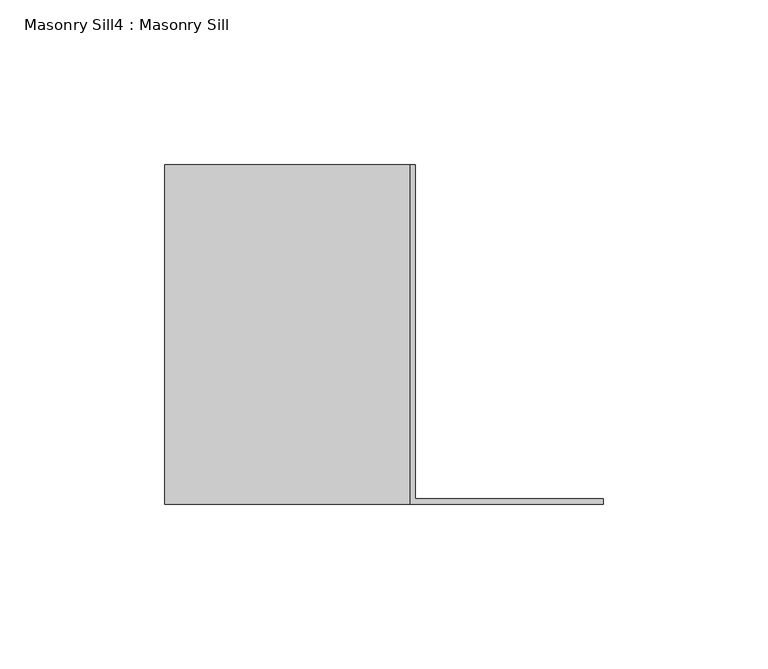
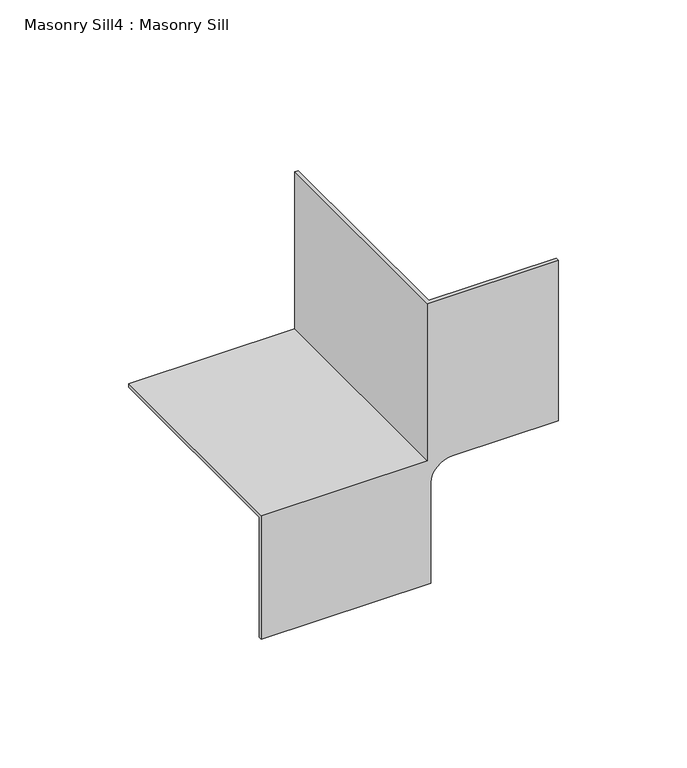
"""IFC4 building model written with IfcOpenShell, lengths in millimetres: proxy geometry, Masonry Sill4 : Masonry Sill."""

from ifc_helpers import new_model, si_unit, frame, origin, place, context, project, spatial, polyline, circle_curve, source, transform, mapped, element, save
from ifc_brep_helpers import plane_surface, revolved_surface, advanced_brep


def masonry_sill4_masonry_sill_9228ef93(model_context):
    return source(origin(), model_context, "Body", "AdvancedBrep", [
        advanced_brep(
        [(26781.2726773, 732.4066297, 558.8), (26781.2726773, 732.4066297, 560.3875), (26855.8851773, 732.4066297, 560.3875), (26855.8851773, 732.4066297, 635.0), (26857.4726773, 732.4066297, 635.0), (26857.4726773, 732.4066297, 558.8), (26857.4726773, 630.8066297, 558.8), (26781.2726773, 630.8066297, 558.8), (26857.4726773, 630.8066297, 635.0), (26855.8851773, 629.2191297, 635.0), (26914.6226773, 629.2191297, 635.0), (26914.6226773, 630.8066297, 635.0), (26855.8851773, 629.2191297, 560.3875), (26781.2726773, 629.2191297, 560.3875), (26781.2726773, 630.8066297, 501.65), (26781.2726773, 629.2191297, 501.65), (26857.4726773, 629.2191297, 501.65), (26857.4726773, 629.2191297, 549.275), (26866.9976773, 629.2191297, 558.8), (26914.6226773, 629.2191297, 558.8), (26914.6226773, 630.8066297, 558.8), (26866.9976773, 630.8066297, 558.8), (26857.4726773, 630.8066297, 549.275), (26857.4726773, 630.8066297, 501.65)],
        [
            (0, 1),
            (1, 2),
            (2, 3),
            (3, 4),
            (4, 5),
            (5, 0),
            (5, 6),
            (6, 7),
            (7, 0),
            (4, 8),
            (8, 6),
            (3, 9),
            (9, 10),
            (10, 11),
            (11, 8),
            (2, 12),
            (12, 9),
            (1, 13),
            (13, 12),
            (7, 14),
            (14, 15),
            (15, 13),
            (15, 16),
            (16, 17),
            (17, 18, circle_curve(frame((26866.9976773, 629.2191297, 549.275), z_axis=(0.0, 1.0, 0.0), x_axis=(1.0, 0.0, 0.0)), 9.525)),
            (18, 19),
            (19, 10),
            (11, 20),
            (20, 21),
            (21, 22, circle_curve(frame((26866.9976773, 630.8066297, 549.275), z_axis=(0.0, -1.0, 0.0), x_axis=(1.0, 0.0, 0.0)), 9.525)),
            (22, 23),
            (23, 14),
            (19, 20),
            (18, 21),
            (17, 22),
            (16, 23),
        ],
        [
            plane_surface(frame((26857.4726773, 732.4066297, 558.8), z_axis=(0.0, 1.0, 0.0), x_axis=(1.0, 0.0, 0.0))),
            plane_surface(frame((26857.4726773, 732.4066297, 558.8), z_axis=(0.0, 0.0, -1.0), x_axis=(0.0, -1.0, 0.0))),
            plane_surface(frame((26857.4726773, 732.4066297, 635.0), z_axis=(1.0, 0.0, 0.0), x_axis=(0.0, -1.0, 0.0))),
            plane_surface(frame((26855.8851773, 732.4066297, 635.0), z_axis=(0.0, 0.0, 1.0), x_axis=(0.0, -1.0, 0.0))),
            plane_surface(frame((26855.8851773, 732.4066297, 560.3875), z_axis=(-1.0, 0.0, 0.0), x_axis=(0.0, -1.0, 0.0))),
            plane_surface(frame((26781.2726773, 732.4066297, 560.3875), z_axis=(0.0, 0.0, 1.0), x_axis=(0.0, -1.0, 0.0))),
            plane_surface(frame((26781.2726773, 732.4066297, 558.8), z_axis=(-1.0, 0.0, 0.0), x_axis=(0.0, -1.0, 0.0))),
            plane_surface(frame((26781.2726773, 629.2191297, 501.65), z_axis=(0.0, -1.0, 0.0), x_axis=(1.0, 0.0, 0.0))),
            plane_surface(frame((26781.2726773, 630.8066297, 501.65), z_axis=(0.0, 1.0, 0.0), x_axis=(-1.0, 0.0, 0.0))),
            plane_surface(frame((26914.6226773, 629.2191297, 558.8), z_axis=(1.0, 0.0, 0.0), x_axis=(0.0, 1.0, 0.0))),
            plane_surface(frame((26866.9976773, 629.2191297, 558.8), z_axis=(0.0, 0.0, -1.0), x_axis=(0.0, 1.0, 0.0))),
            revolved_surface(polyline([(26876.522677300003, 630.8066297, 549.275), (26876.522677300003, 629.2191297, 549.275)]), (26866.9976773, 630.8066297, 549.275), (0.0, 1.0, 0.0)),
            plane_surface(frame((26857.4726773, 629.2191297, 501.65), z_axis=(1.0, 0.0, 0.0), x_axis=(0.0, 1.0, 0.0))),
            plane_surface(frame((26781.2726773, 629.2191297, 501.65), z_axis=(0.0, 0.0, -1.0), x_axis=(0.0, 1.0, 0.0))),
        ],
        [
            (0, [[1, 2, 3, 4, 5, 6]]),
            (1, [[-6, 7, 8, 9]]),
            (2, [[-5, 10, 11, -7]]),
            (3, [[-4, 12, 13, 14, 15, -10]]),
            (4, [[-12, -3, 16, 17]]),
            (5, [[-16, -2, 18, 19]]),
            (6, [[-18, -1, -9, 20, 21, 22]]),
            (7, [[23, 24, 25, 26, 27, -13, -17, -19, -22]]),
            (8, [[28, 29, 30, 31, 32, -20, -8, -11, -15]]),
            (9, [[-27, 33, -28, -14]]),
            (10, [[-26, 34, -29, -33]]),
            (11, [[-25, 35, -30, -34]]),
            (12, [[-24, 36, -31, -35]]),
            (13, [[-23, -21, -32, -36]]),
        ],
    ),
    ])


if __name__ == "__main__":
    model = new_model("IFC4")
    model_context = context("Model", 3, world=origin())
    ifc_project = project(units=[si_unit("LENGTHUNIT", "METRE", prefix="MILLI")], contexts=[model_context])
    site = spatial("IfcSite", under=ifc_project)
    building = spatial("IfcBuilding", under=site)
    placement = place(None, origin())
    masonry_sill4_masonry_sill_shape = masonry_sill4_masonry_sill_9228ef93(model_context)
    element("IfcBuildingElementProxy", 1, Name="Masonry Sill4 : Masonry Sill", ObjectType="Masonry Sill4 : Masonry Sill", at=placement, inside=building, context=model_context, shape_type="MappedRepresentation", body=[
        mapped(masonry_sill4_masonry_sill_shape, transform((0.0, 0.0, 0.0), x_axis=(1.0, 0.0, 0.0), y_axis=(0.0, 1.0, 0.0), z_axis=(0.0, 0.0, 1.0))),
    ])
    save(model, "model.ifc")
